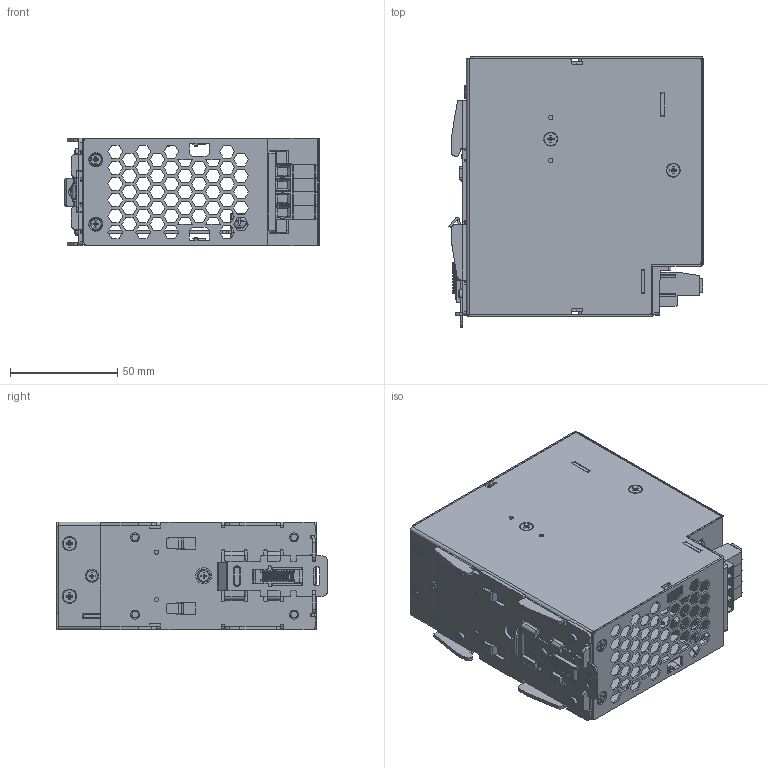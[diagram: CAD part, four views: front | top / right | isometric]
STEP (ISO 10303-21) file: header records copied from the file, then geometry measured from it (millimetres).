
FILE_DESCRIPTION((''),'2;1');
FILE_NAME('DRP024V120W3BA_ASM','2013-01-11T',('Manop.Pr'),(''),'PRO/ENGINEER BY PARAMETRIC TECHNOLOGY CORPORATION, 2010180','PRO/ENGINEER BY PARAMETRIC TECHNOLOGY CORPORATION, 2010180','');
FILE_SCHEMA(('CONFIG_CONTROL_DESIGN','SHAPE_APPEARANCE_LAYERS_GROUPS'));
Products named in the file (31): 330314660101; 330314840101; 347205340000; 326355370202; 326838880000; 346130370000; 346008810000; 346209430000; 390018080000_ASM; 295805570X_PWB_MAIN-BOARD; 3461550200_; 296815030X_PWB_; 3076624046_A_PRT0001; 3076624046_A_PRT0002; 3076624046_EPK635VS-08P_ASM; ASSY_DCT-1503_ASM; 296815090X_PWB_; 3350940600; 3076611846_A_EHK508V-04P-BL; ASSY_DCT-1509_ASM; 3352085700_; EE_VR-ADJ; 3123307500_; EE_LED_NEW; ASSY_LED350_ASM; ASSY_PWB_DRP024V120W3BA_ASM; 3100020600; 3105220700; 3105282900; 3103380800; DRP024V120W3BA_ASM
Assembly tree (42 placements, depth 5):
  DRP024V120W3BA_ASM
    330314660101
    330314840101
    347205340000
    326355370202
    326838880000
    390018080000_ASM
      346130370000
      346008810000
      346209430000
    ASSY_PWB_DRP024V120W3BA_ASM
      295805570X_PWB_MAIN-BOARD
      3461550200_
      ASSY_DCT-1503_ASM
        296815030X_PWB_
        3076624046_EPK635VS-08P_ASM
          3076624046_A_PRT0001  x2
          3076624046_A_PRT0002  x2
      ASSY_DCT-1509_ASM
        296815090X_PWB_
        3350940600
        3076611846_A_EHK508V-04P-BL
      3352085700_
      EE_VR-ADJ
      ASSY_LED350_ASM
        3123307500_
        EE_LED_NEW
    3100020600  x10
    3105220700  x2
    3105282900
    3103380800
Bounding box: 118.49 x 126 x 50.08 mm (x, y, z)
Volume: 105052.8 mm3; surface area: 176165.6 mm2
Topology: 40 solids, 40 shells, 5603 faces, 15039 edges, 9629 vertices
Faces by surface type: plane 3742, cylinder 970, extrusion 548, cone 132, bspline 127, torus 50, sphere 34
Entity records: 189938 total; most frequent: CARTESIAN_POINT 40728, ORIENTED_EDGE 26414, DIRECTION 23151, EDGE_CURVE 13207, VECTOR 10377, LINE 9829, VERTEX_POINT 8597, PRESENTATION_STYLE_ASSIGNMENT 8040
